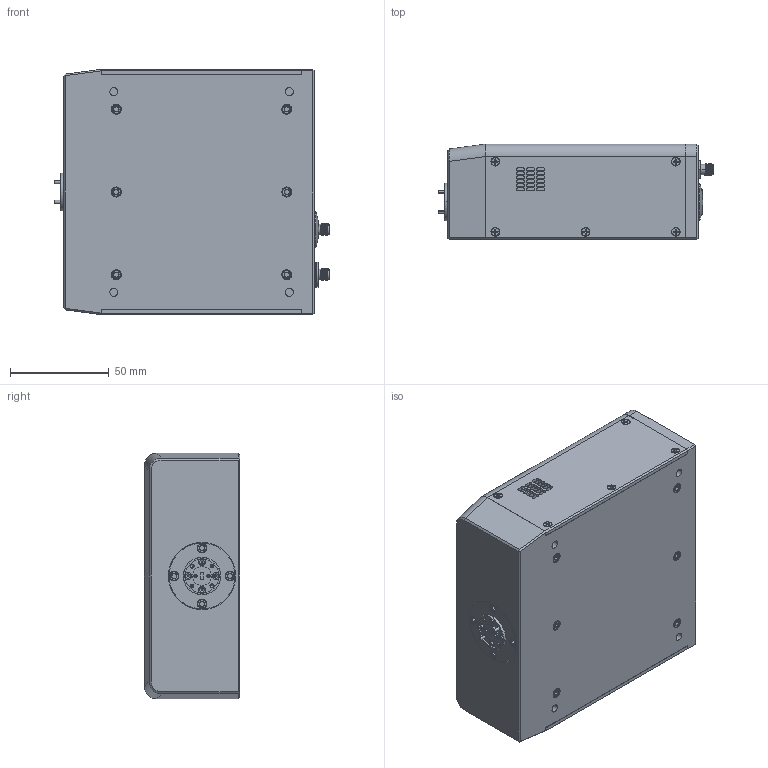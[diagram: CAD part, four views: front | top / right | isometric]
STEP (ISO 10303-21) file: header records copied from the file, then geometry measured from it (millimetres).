
FILE_DESCRIPTION (( 'STEP AP214' ), '1' );
FILE_NAME ('TC-E-A, no feet.STEP', '2024-05-13T21:30:17', ( '' ), ( '' ), 'SwSTEP 2.0', 'SolidWorks 2021', '' );
FILE_SCHEMA (( 'AUTOMOTIVE_DESIGN' ));
Length unit declared in the file: inch
Products named in the file (1): TC-E-A, no feet
Bounding box: 139.21 x 48.26 x 124.32 mm (x, y, z)
Volume: 749570.5 mm3; surface area: 104745.2 mm2
Topology: 8 solids, 9 shells, 1589 faces, 4235 edges, 2712 vertices
Faces by surface type: plane 713, cylinder 539, cone 298, bspline 36, torus 2, sphere 1
Entity records: 81354 total; most frequent: CARTESIAN_POINT 22923, ORIENTED_EDGE 8386, DIRECTION 7485, EDGE_CURVE 4193, VERTEX_POINT 2711, AXIS2_PLACEMENT_3D 2711, LINE 2063, VECTOR 2063
